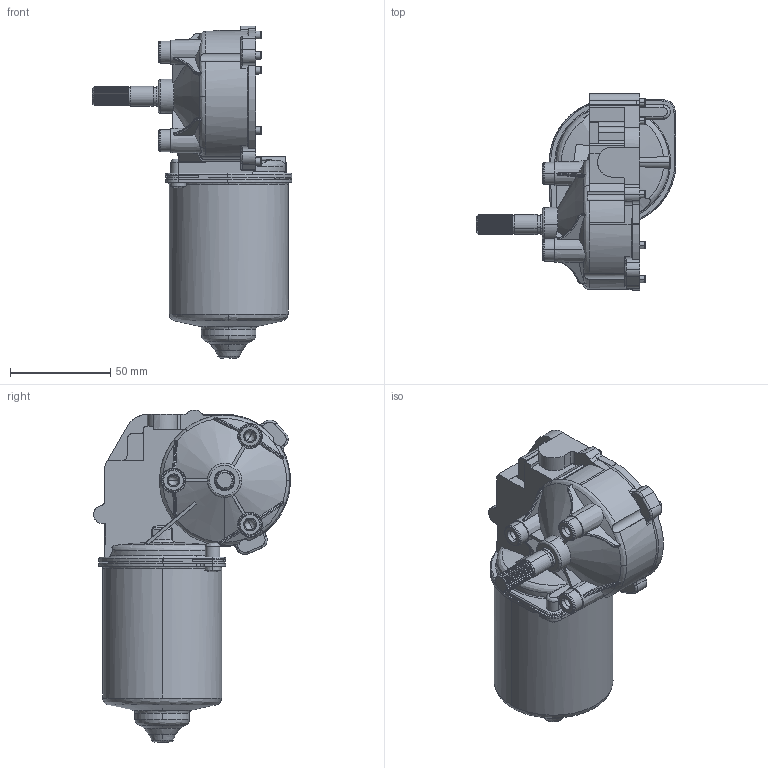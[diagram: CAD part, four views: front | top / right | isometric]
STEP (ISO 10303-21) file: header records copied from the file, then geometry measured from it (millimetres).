
FILE_DESCRIPTION (( 'STEP AP214' ), '1' );
FILE_NAME ('404866.step', '2018-03-15T08:07:20', ( '' ), ( '' ), 'SwSTEP 2.0', 'SolidWorks 2010', '' );
FILE_SCHEMA (( 'AUTOMOTIVE_DESIGN' ));
Length unit declared in the file: millimetre
Products named in the file (3): 404866; Shaft-W277-KGK; Motor-DCK31-Right-KGK
Assembly tree (2 placements, depth 2):
  404866
    Motor-DCK31-Right-KGK
    Shaft-W277-KGK
Bounding box: 99.5 x 98.03 x 165.2 mm (x, y, z)
Volume: 224562.9 mm3; surface area: 68420.8 mm2
Topology: 2 solids, 4 shells, 745 faces, 2107 edges, 1385 vertices
Faces by surface type: plane 286, cylinder 201, bspline 167, cone 91
Entity records: 37541 total; most frequent: CARTESIAN_POINT 20276, ORIENTED_EDGE 4188, DIRECTION 2754, EDGE_CURVE 2094, VERTEX_POINT 1385, AXIS2_PLACEMENT_3D 1041, B_SPLINE_CURVE_WITH_KNOTS 923, EDGE_LOOP 785
